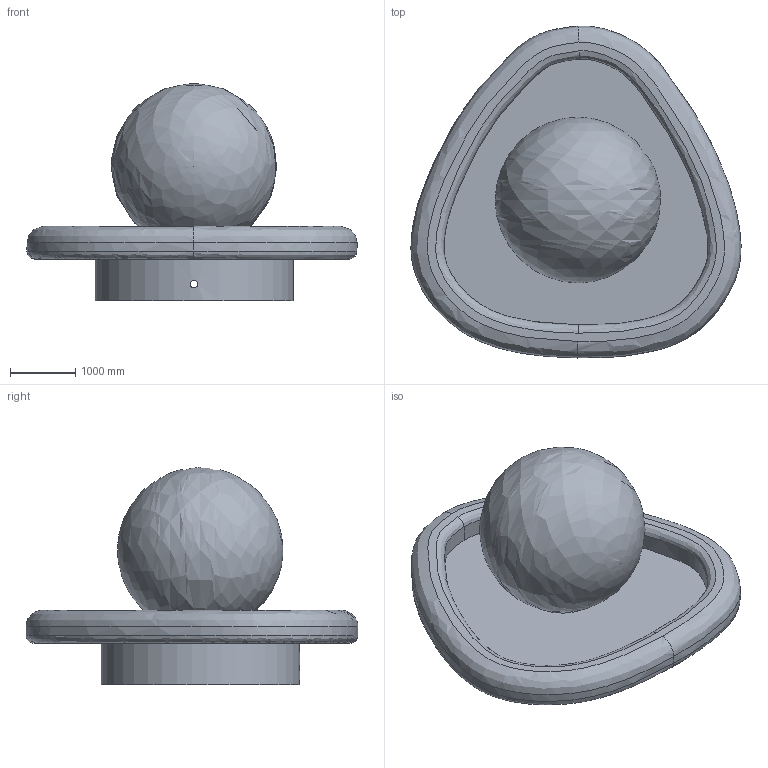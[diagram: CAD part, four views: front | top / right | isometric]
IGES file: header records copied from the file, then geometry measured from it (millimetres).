
Global section: file name: Black Pearl Marble Wall Lamp; native system: AutoCAD 2022 - 简体中文 (Simplified Chinese),62HAuto; preprocessor: desk Translation Framework DWG producer (atf_dwg_producer); organization: unknown; date: 20250703.161122; units: inch
Bounding box: 5071.73 x 5100.34 x 3337.8 mm (x, y, z)
Volume: 6246216664.4 mm3; surface area: 125013662.8 mm2
Topology: 8 solids, 8 shells, 101 faces, 254 edges, 172 vertices
Faces by surface type: bspline 101
